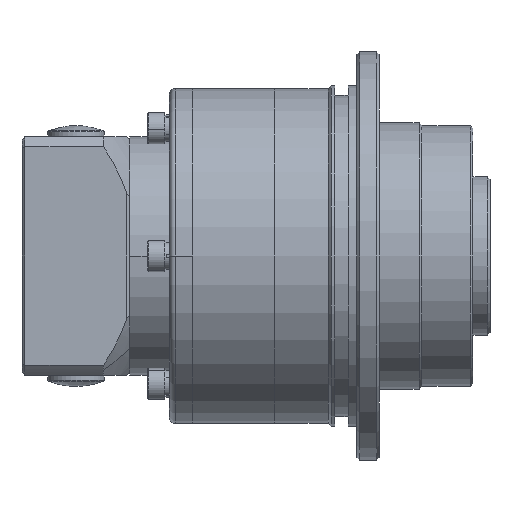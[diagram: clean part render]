
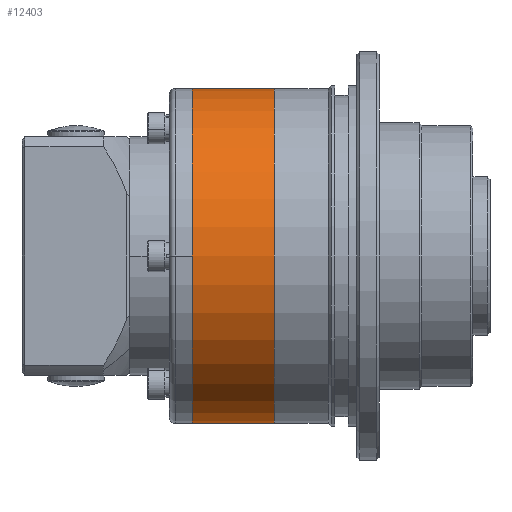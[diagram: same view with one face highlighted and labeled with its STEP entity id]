
A CAD part, front view. The second image highlights one B-rep face of the part: STEP entity #12403.
In plain terms, the highlighted cylindrical face has radius 29.5 mm (diameter 59 mm), a partial arc.
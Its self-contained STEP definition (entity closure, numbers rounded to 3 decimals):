
#23 = DIRECTION ( 'NONE',  ( 0., 0., 1. ) ) ;
#507 = EDGE_CURVE ( 'NONE', #14069, #13158, #8276, .T. ) ;
#602 = DIRECTION ( 'NONE',  ( 0., 0., 1. ) ) ;
#1475 = ORIENTED_EDGE ( 'NONE', *, *, #12459, .T. ) ;
#1533 = EDGE_CURVE ( 'NONE', #13158, #15736, #5189, .T. ) ;
#1596 = CARTESIAN_POINT ( 'NONE',  ( 0., 0., 29.5 ) ) ;
#2652 = VECTOR ( 'NONE', #20313, 1000. ) ;
#2969 = CARTESIAN_POINT ( 'NONE',  ( 0., 0., -29.5 ) ) ;
#3235 = VERTEX_POINT ( 'NONE', #1596 ) ;
#3834 = FACE_OUTER_BOUND ( 'NONE', #5666, .T. ) ;
#5189 = CIRCLE ( 'NONE', #24463, 29.5 ) ;
#5657 = CARTESIAN_POINT ( 'NONE',  ( -14.5, 0., -29.5 ) ) ;
#5666 = EDGE_LOOP ( 'NONE', ( #20033, #16694, #1475, #12756 ) ) ;
#6728 = CARTESIAN_POINT ( 'NONE',  ( -14.5, 0., -29.5 ) ) ;
#7697 = LINE ( 'NONE', #8853, #2652 ) ;
#8276 = LINE ( 'NONE', #6728, #17778 ) ;
#8294 = CYLINDRICAL_SURFACE ( 'NONE', #16789, 29.5 ) ;
#8853 = CARTESIAN_POINT ( 'NONE',  ( -14.5, 0., 29.5 ) ) ;
#9757 = CARTESIAN_POINT ( 'NONE',  ( -14.5, 0., 29.5 ) ) ;
#10556 = DIRECTION ( 'NONE',  ( -1., 0., 0. ) ) ;
#11398 = DIRECTION ( 'NONE',  ( -1., 0., 0. ) ) ;
#11980 = DIRECTION ( 'NONE',  ( -1., 0., 0. ) ) ;
#12403 = ADVANCED_FACE ( 'NONE', ( #3834 ), #8294, .T. ) ;
#12459 = EDGE_CURVE ( 'NONE', #3235, #15736, #7697, .T. ) ;
#12756 = ORIENTED_EDGE ( 'NONE', *, *, #1533, .F. ) ;
#13158 = VERTEX_POINT ( 'NONE', #5657 ) ;
#14069 = VERTEX_POINT ( 'NONE', #2969 ) ;
#14411 = DIRECTION ( 'NONE',  ( 0., 0., 1. ) ) ;
#15736 = VERTEX_POINT ( 'NONE', #9757 ) ;
#16312 = CARTESIAN_POINT ( 'NONE',  ( -14.5, 0., 0. ) ) ;
#16694 = ORIENTED_EDGE ( 'NONE', *, *, #22984, .T. ) ;
#16789 = AXIS2_PLACEMENT_3D ( 'NONE', #16312, #20143, #14411 ) ;
#17778 = VECTOR ( 'NONE', #10556, 1000. ) ;
#18771 = CIRCLE ( 'NONE', #21672, 29.5 ) ;
#20033 = ORIENTED_EDGE ( 'NONE', *, *, #507, .F. ) ;
#20143 = DIRECTION ( 'NONE',  ( -1., 0., 0. ) ) ;
#20313 = DIRECTION ( 'NONE',  ( -1., 0., 0. ) ) ;
#21672 = AXIS2_PLACEMENT_3D ( 'NONE', #23360, #11980, #602 ) ;
#22783 = CARTESIAN_POINT ( 'NONE',  ( -14.5, 0., 0. ) ) ;
#22984 = EDGE_CURVE ( 'NONE', #14069, #3235, #18771, .T. ) ;
#23360 = CARTESIAN_POINT ( 'NONE',  ( 0., 0., 0. ) ) ;
#24463 = AXIS2_PLACEMENT_3D ( 'NONE', #22783, #11398, #23 ) ;
